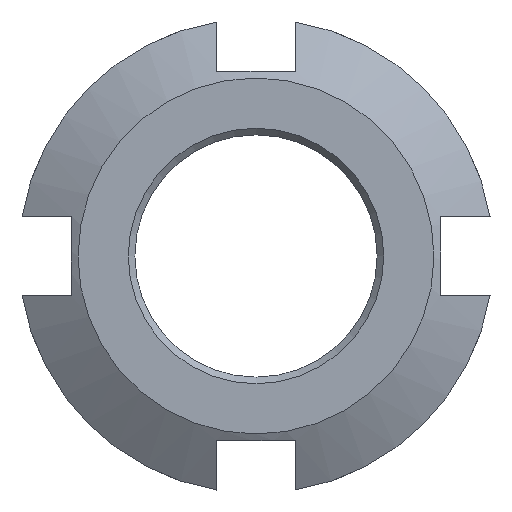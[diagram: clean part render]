
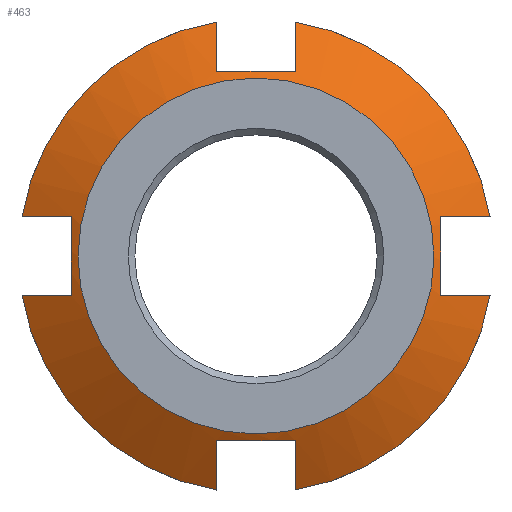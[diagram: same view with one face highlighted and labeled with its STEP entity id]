
A CAD part, left-side view. The second image highlights one B-rep face of the part: STEP entity #463.
In plain terms, the highlighted conical face has half-angle 60 degrees and reference radius 7.875 mm.
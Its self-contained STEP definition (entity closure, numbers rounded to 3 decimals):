
#15=(
BOUNDED_CURVE()
B_SPLINE_CURVE(2,(#701,#702,#703),.UNSPECIFIED.,.F.,.F.)
B_SPLINE_CURVE_WITH_KNOTS((3,3),(0.,0.215),.UNSPECIFIED.)
CURVE()
GEOMETRIC_REPRESENTATION_ITEM()
RATIONAL_B_SPLINE_CURVE((1.,1.007,1.))
REPRESENTATION_ITEM('')
);
#16=(
BOUNDED_CURVE()
B_SPLINE_CURVE(2,(#733,#734,#735),.UNSPECIFIED.,.F.,.F.)
B_SPLINE_CURVE_WITH_KNOTS((3,3),(0.,0.215),.UNSPECIFIED.)
CURVE()
GEOMETRIC_REPRESENTATION_ITEM()
RATIONAL_B_SPLINE_CURVE((1.,1.007,1.))
REPRESENTATION_ITEM('')
);
#17=(
BOUNDED_CURVE()
B_SPLINE_CURVE(2,(#765,#766,#767),.UNSPECIFIED.,.F.,.F.)
B_SPLINE_CURVE_WITH_KNOTS((3,3),(0.,0.215),.UNSPECIFIED.)
CURVE()
GEOMETRIC_REPRESENTATION_ITEM()
RATIONAL_B_SPLINE_CURVE((1.,1.007,1.))
REPRESENTATION_ITEM('')
);
#18=(
BOUNDED_CURVE()
B_SPLINE_CURVE(2,(#797,#798,#799),.UNSPECIFIED.,.F.,.F.)
B_SPLINE_CURVE_WITH_KNOTS((3,3),(0.,0.215),.UNSPECIFIED.)
CURVE()
GEOMETRIC_REPRESENTATION_ITEM()
RATIONAL_B_SPLINE_CURVE((1.,1.007,1.))
REPRESENTATION_ITEM('')
);
#19=(
BOUNDED_CURVE()
B_SPLINE_CURVE(2,(#805,#806,#807),.UNSPECIFIED.,.F.,.F.)
B_SPLINE_CURVE_WITH_KNOTS((3,3),(0.,0.215),.UNSPECIFIED.)
CURVE()
GEOMETRIC_REPRESENTATION_ITEM()
RATIONAL_B_SPLINE_CURVE((1.,1.007,1.))
REPRESENTATION_ITEM('')
);
#20=(
BOUNDED_CURVE()
B_SPLINE_CURVE(2,(#810,#811,#812),.UNSPECIFIED.,.F.,.F.)
B_SPLINE_CURVE_WITH_KNOTS((3,3),(0.404,0.75),
 .UNSPECIFIED.)
CURVE()
GEOMETRIC_REPRESENTATION_ITEM()
RATIONAL_B_SPLINE_CURVE((1.13,1.156,1.13))
REPRESENTATION_ITEM('')
);
#21=(
BOUNDED_CURVE()
B_SPLINE_CURVE(2,(#814,#815,#816),.UNSPECIFIED.,.F.,.F.)
B_SPLINE_CURVE_WITH_KNOTS((3,3),(0.404,0.75),
 .UNSPECIFIED.)
CURVE()
GEOMETRIC_REPRESENTATION_ITEM()
RATIONAL_B_SPLINE_CURVE((1.13,1.156,1.13))
REPRESENTATION_ITEM('')
);
#22=(
BOUNDED_CURVE()
B_SPLINE_CURVE(2,(#821,#822,#823),.UNSPECIFIED.,.F.,.F.)
B_SPLINE_CURVE_WITH_KNOTS((3,3),(0.,0.215),.UNSPECIFIED.)
CURVE()
GEOMETRIC_REPRESENTATION_ITEM()
RATIONAL_B_SPLINE_CURVE((1.,1.007,1.))
REPRESENTATION_ITEM('')
);
#23=(
BOUNDED_CURVE()
B_SPLINE_CURVE(2,(#826,#827,#828),.UNSPECIFIED.,.F.,.F.)
B_SPLINE_CURVE_WITH_KNOTS((3,3),(0.404,0.75),
 .UNSPECIFIED.)
CURVE()
GEOMETRIC_REPRESENTATION_ITEM()
RATIONAL_B_SPLINE_CURVE((1.13,1.156,1.13))
REPRESENTATION_ITEM('')
);
#24=(
BOUNDED_CURVE()
B_SPLINE_CURVE(2,(#841,#842,#843),.UNSPECIFIED.,.F.,.F.)
B_SPLINE_CURVE_WITH_KNOTS((3,3),(0.054,0.264),
 .UNSPECIFIED.)
CURVE()
GEOMETRIC_REPRESENTATION_ITEM()
RATIONAL_B_SPLINE_CURVE((1.004,1.009,1.))
REPRESENTATION_ITEM('')
);
#25=(
BOUNDED_CURVE()
B_SPLINE_CURVE(2,(#847,#848,#849),.UNSPECIFIED.,.F.,.F.)
B_SPLINE_CURVE_WITH_KNOTS((3,3),(0.404,0.75),
 .UNSPECIFIED.)
CURVE()
GEOMETRIC_REPRESENTATION_ITEM()
RATIONAL_B_SPLINE_CURVE((1.13,1.156,1.13))
REPRESENTATION_ITEM('')
);
#26=(
BOUNDED_CURVE()
B_SPLINE_CURVE(2,(#852,#853,#854),.UNSPECIFIED.,.F.,.F.)
B_SPLINE_CURVE_WITH_KNOTS((3,3),(0.,0.209),.UNSPECIFIED.)
CURVE()
GEOMETRIC_REPRESENTATION_ITEM()
RATIONAL_B_SPLINE_CURVE((1.,1.009,1.004))
REPRESENTATION_ITEM('')
);
#119=FACE_BOUND('',#177,.T.);
#145=FACE_OUTER_BOUND('',#176,.T.);
#176=EDGE_LOOP('',(#418,#419,#420,#421,#422,#423,#424,#425,#426,#427,#428,
#429,#430,#431,#432,#433));
#177=EDGE_LOOP('',(#434));
#181=CIRCLE('',#472,6.75);
#191=CIRCLE('',#498,9.);
#192=CIRCLE('',#500,9.);
#193=CIRCLE('',#502,9.);
#194=CIRCLE('',#507,9.);
#198=VERTEX_POINT('',#635);
#218=VERTEX_POINT('',#698);
#219=VERTEX_POINT('',#700);
#222=VERTEX_POINT('',#730);
#223=VERTEX_POINT('',#732);
#226=VERTEX_POINT('',#762);
#227=VERTEX_POINT('',#764);
#230=VERTEX_POINT('',#794);
#231=VERTEX_POINT('',#796);
#232=VERTEX_POINT('',#802);
#233=VERTEX_POINT('',#804);
#234=VERTEX_POINT('',#818);
#235=VERTEX_POINT('',#820);
#236=VERTEX_POINT('',#830);
#237=VERTEX_POINT('',#834);
#238=VERTEX_POINT('',#840);
#239=VERTEX_POINT('',#846);
#243=EDGE_CURVE('',#198,#198,#181,.T.);
#265=EDGE_CURVE('',#219,#218,#15,.T.);
#271=EDGE_CURVE('',#223,#222,#16,.T.);
#277=EDGE_CURVE('',#227,#226,#17,.T.);
#283=EDGE_CURVE('',#231,#230,#18,.T.);
#286=EDGE_CURVE('',#233,#232,#19,.T.);
#288=EDGE_CURVE('',#222,#233,#20,.T.);
#289=EDGE_CURVE('',#226,#231,#21,.T.);
#291=EDGE_CURVE('',#235,#234,#22,.T.);
#293=EDGE_CURVE('',#218,#235,#23,.T.);
#294=EDGE_CURVE('',#236,#219,#191,.T.);
#297=EDGE_CURVE('',#230,#237,#192,.T.);
#298=EDGE_CURVE('',#234,#223,#193,.T.);
#299=EDGE_CURVE('',#238,#236,#24,.T.);
#301=EDGE_CURVE('',#239,#238,#25,.T.);
#303=EDGE_CURVE('',#237,#239,#26,.T.);
#304=EDGE_CURVE('',#232,#227,#194,.T.);
#418=ORIENTED_EDGE('',*,*,#286,.T.);
#419=ORIENTED_EDGE('',*,*,#304,.T.);
#420=ORIENTED_EDGE('',*,*,#277,.T.);
#421=ORIENTED_EDGE('',*,*,#289,.T.);
#422=ORIENTED_EDGE('',*,*,#283,.T.);
#423=ORIENTED_EDGE('',*,*,#297,.T.);
#424=ORIENTED_EDGE('',*,*,#303,.T.);
#425=ORIENTED_EDGE('',*,*,#301,.T.);
#426=ORIENTED_EDGE('',*,*,#299,.T.);
#427=ORIENTED_EDGE('',*,*,#294,.T.);
#428=ORIENTED_EDGE('',*,*,#265,.T.);
#429=ORIENTED_EDGE('',*,*,#293,.T.);
#430=ORIENTED_EDGE('',*,*,#291,.T.);
#431=ORIENTED_EDGE('',*,*,#298,.T.);
#432=ORIENTED_EDGE('',*,*,#271,.T.);
#433=ORIENTED_EDGE('',*,*,#288,.T.);
#434=ORIENTED_EDGE('',*,*,#243,.T.);
#437=CONICAL_SURFACE('',#508,7.875,60.);
#463=ADVANCED_FACE('',(#145,#119),#437,.T.);
#472=AXIS2_PLACEMENT_3D('',#636,#523,#524);
#498=AXIS2_PLACEMENT_3D('',#831,#599,#600);
#500=AXIS2_PLACEMENT_3D('',#836,#605,#606);
#502=AXIS2_PLACEMENT_3D('',#838,#609,#610);
#507=AXIS2_PLACEMENT_3D('',#856,#621,#622);
#508=AXIS2_PLACEMENT_3D('',#857,#623,#624);
#523=DIRECTION('center_axis',(1.,0.,0.));
#524=DIRECTION('ref_axis',(0.,-1.,0.));
#599=DIRECTION('center_axis',(-1.,0.,0.));
#600=DIRECTION('ref_axis',(0.,-1.,0.));
#605=DIRECTION('center_axis',(-1.,0.,0.));
#606=DIRECTION('ref_axis',(0.,-1.,0.));
#609=DIRECTION('center_axis',(-1.,0.,0.));
#610=DIRECTION('ref_axis',(0.,-1.,0.));
#621=DIRECTION('center_axis',(-1.,0.,0.));
#622=DIRECTION('ref_axis',(0.,-1.,0.));
#623=DIRECTION('center_axis',(1.,0.,0.));
#624=DIRECTION('ref_axis',(0.,-1.,0.));
#635=CARTESIAN_POINT('',(0.,6.75,0.));
#636=CARTESIAN_POINT('Origin',(0.,0.,0.));
#698=CARTESIAN_POINT('',(0.236,1.5,-7.));
#700=CARTESIAN_POINT('',(1.299,1.5,-8.874));
#701=CARTESIAN_POINT('Ctrl Pts',(1.299,1.5,-8.874));
#702=CARTESIAN_POINT('Ctrl Pts',(0.705,1.5,-7.83));
#703=CARTESIAN_POINT('Ctrl Pts',(0.236,1.5,-7.));
#730=CARTESIAN_POINT('',(0.236,-7.,-1.5));
#732=CARTESIAN_POINT('',(1.299,-8.874,-1.5));
#733=CARTESIAN_POINT('Ctrl Pts',(1.299,-8.874,-1.5));
#734=CARTESIAN_POINT('Ctrl Pts',(0.705,-7.83,-1.5));
#735=CARTESIAN_POINT('Ctrl Pts',(0.236,-7.,-1.5));
#762=CARTESIAN_POINT('',(0.236,-1.5,7.));
#764=CARTESIAN_POINT('',(1.299,-1.5,8.874));
#765=CARTESIAN_POINT('Ctrl Pts',(1.299,-1.5,8.874));
#766=CARTESIAN_POINT('Ctrl Pts',(0.705,-1.5,7.83));
#767=CARTESIAN_POINT('Ctrl Pts',(0.236,-1.5,7.));
#794=CARTESIAN_POINT('',(1.299,1.5,8.874));
#796=CARTESIAN_POINT('',(0.236,1.5,7.));
#797=CARTESIAN_POINT('Ctrl Pts',(0.236,1.5,7.));
#798=CARTESIAN_POINT('Ctrl Pts',(0.705,1.5,7.83));
#799=CARTESIAN_POINT('Ctrl Pts',(1.299,1.5,8.874));
#802=CARTESIAN_POINT('',(1.299,-8.874,1.5));
#804=CARTESIAN_POINT('',(0.236,-7.,1.5));
#805=CARTESIAN_POINT('Ctrl Pts',(0.236,-7.,1.5));
#806=CARTESIAN_POINT('Ctrl Pts',(0.705,-7.83,1.5));
#807=CARTESIAN_POINT('Ctrl Pts',(1.299,-8.874,1.5));
#810=CARTESIAN_POINT('Ctrl Pts',(0.236,-7.,-1.5));
#811=CARTESIAN_POINT('Ctrl Pts',(0.055,-7.,0.));
#812=CARTESIAN_POINT('Ctrl Pts',(0.236,-7.,1.5));
#814=CARTESIAN_POINT('Ctrl Pts',(0.236,-1.5,7.));
#815=CARTESIAN_POINT('Ctrl Pts',(0.055,0.,
7.));
#816=CARTESIAN_POINT('Ctrl Pts',(0.236,1.5,7.));
#818=CARTESIAN_POINT('',(1.299,-1.5,-8.874));
#820=CARTESIAN_POINT('',(0.236,-1.5,-7.));
#821=CARTESIAN_POINT('Ctrl Pts',(0.236,-1.5,-7.));
#822=CARTESIAN_POINT('Ctrl Pts',(0.705,-1.5,-7.83));
#823=CARTESIAN_POINT('Ctrl Pts',(1.299,-1.5,-8.874));
#826=CARTESIAN_POINT('Ctrl Pts',(0.236,1.5,-7.));
#827=CARTESIAN_POINT('Ctrl Pts',(0.055,0.,
-7.));
#828=CARTESIAN_POINT('Ctrl Pts',(0.236,-1.5,-7.));
#830=CARTESIAN_POINT('',(1.299,8.874,-1.5));
#831=CARTESIAN_POINT('Origin',(1.299,0.,0.));
#834=CARTESIAN_POINT('',(1.299,8.874,1.5));
#836=CARTESIAN_POINT('Origin',(1.299,0.,0.));
#838=CARTESIAN_POINT('Origin',(1.299,0.,0.));
#840=CARTESIAN_POINT('',(0.236,7.,-1.5));
#841=CARTESIAN_POINT('Ctrl Pts',(0.236,7.,-1.5));
#842=CARTESIAN_POINT('Ctrl Pts',(0.705,7.83,-1.5));
#843=CARTESIAN_POINT('Ctrl Pts',(1.299,8.874,-1.5));
#846=CARTESIAN_POINT('',(0.236,7.,1.5));
#847=CARTESIAN_POINT('Ctrl Pts',(0.236,7.,1.5));
#848=CARTESIAN_POINT('Ctrl Pts',(0.055,7.,0.));
#849=CARTESIAN_POINT('Ctrl Pts',(0.236,7.,-1.5));
#852=CARTESIAN_POINT('Ctrl Pts',(1.299,8.874,1.5));
#853=CARTESIAN_POINT('Ctrl Pts',(0.705,7.83,1.5));
#854=CARTESIAN_POINT('Ctrl Pts',(0.236,7.,1.5));
#856=CARTESIAN_POINT('Origin',(1.299,0.,0.));
#857=CARTESIAN_POINT('Origin',(0.65,0.,0.));
